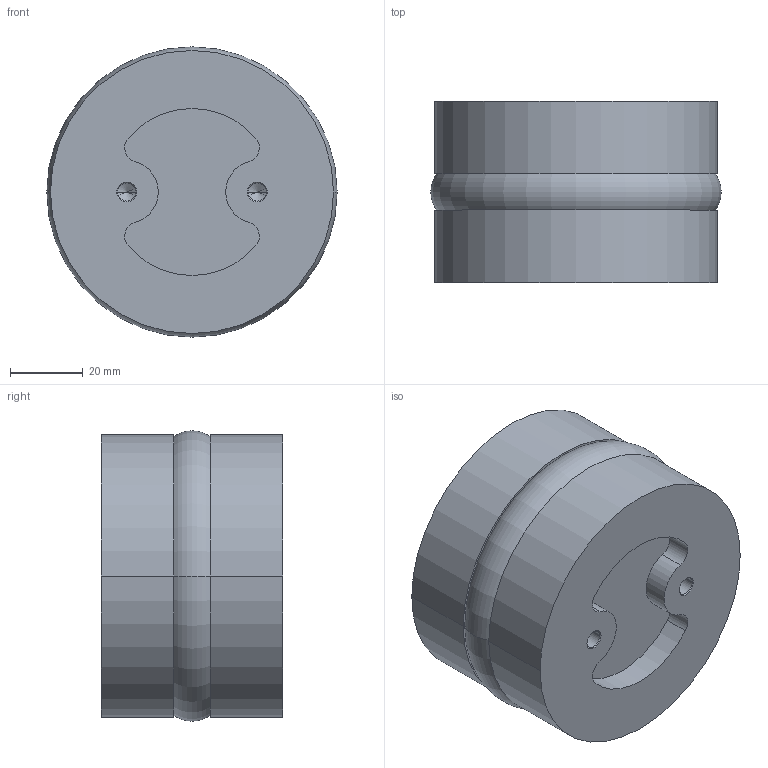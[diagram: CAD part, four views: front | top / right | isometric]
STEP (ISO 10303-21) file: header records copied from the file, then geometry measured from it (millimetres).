
FILE_DESCRIPTION((''),'2;1');
FILE_NAME('R412020583_MIN','2015-05-07T',('mla1hc'),(''),'PRO/ENGINEER BY PARAMETRIC TECHNOLOGY CORPORATION, 2011490','PRO/ENGINEER BY PARAMETRIC TECHNOLOGY CORPORATION, 2011490','');
FILE_SCHEMA(('AUTOMOTIVE_DESIGN_CC2 { 1 2 10303 214 -1 1 5 2 }'));
Length unit declared in the file: millimetre
Products named in the file (1): R412020583_MIN
Bounding box: 80 x 50 x 80 mm (x, y, z)
Volume: 222652.6 mm3; surface area: 26416.8 mm2
Topology: 1 solids, 1 shells, 59 faces, 134 edges, 80 vertices
Faces by surface type: cylinder 32, cone 16, plane 9, torus 2
Entity records: 1631 total; most frequent: DIRECTION 322, CARTESIAN_POINT 265, ORIENTED_EDGE 252, AXIS2_PLACEMENT_3D 137, EDGE_CURVE 126, VERTEX_POINT 80, CIRCLE 78, EDGE_LOOP 70
